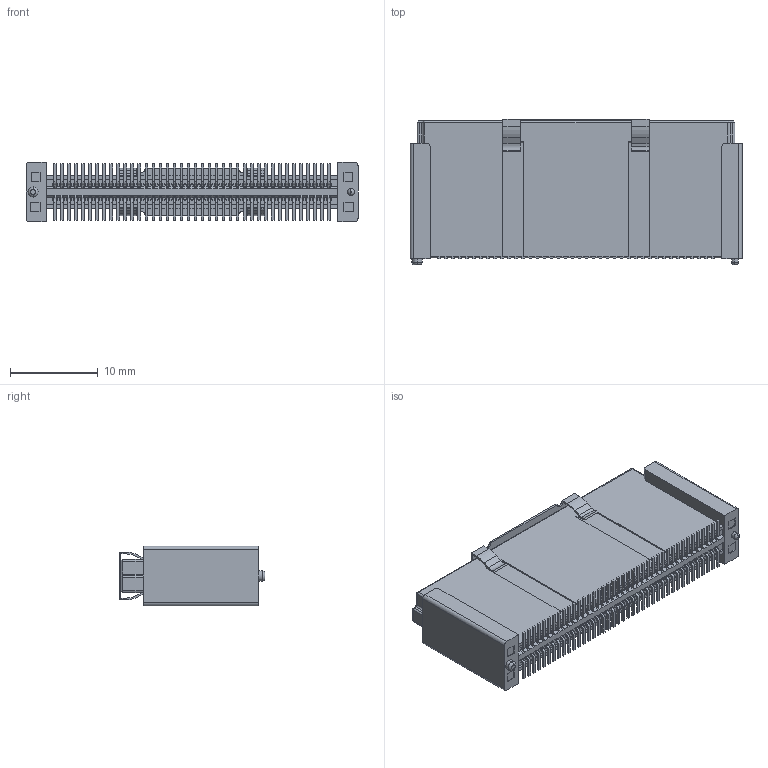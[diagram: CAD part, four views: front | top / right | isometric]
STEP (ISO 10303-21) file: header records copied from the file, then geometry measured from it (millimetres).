
FILE_DESCRIPTION (( 'STEP AP203' ), '1' );
FILE_NAME ('HC-PBB08-1-80-F-H15.7-XX-R-P-06 (BTB0.8 单槽 母座 立贴 带柱 编带+盖)-HCTL.STEP', '2025-12-19T05:56:42', ( '' ), ( '' ), 'SwSTEP 2.0', 'SolidWorks 2025', '' );
FILE_SCHEMA (( 'CONFIG_CONTROL_DESIGN' ));
Length unit declared in the file: millimetre
Products named in the file (1): HC-PBB08-1-80-F-H15.7-XX-R-P-06 (BTB0.8 单槽 母座 立贴 带柱 编带+盖)-HCTL
Bounding box: 37.8 x 16.6 x 6.8 mm (x, y, z)
Volume: 2114.2 mm3; surface area: 4752.8 mm2
Topology: 2 solids, 2 shells, 4360 faces, 13322 edges, 8660 vertices
Faces by surface type: plane 3333, cylinder 1004, bspline 11, cone 8, torus 4
Entity records: 149721 total; most frequent: CARTESIAN_POINT 29524, ORIENTED_EDGE 26644, DIRECTION 23376, EDGE_CURVE 13322, VECTOR 11276, LINE 11276, VERTEX_POINT 8660, AXIS2_PLACEMENT_3D 6050
